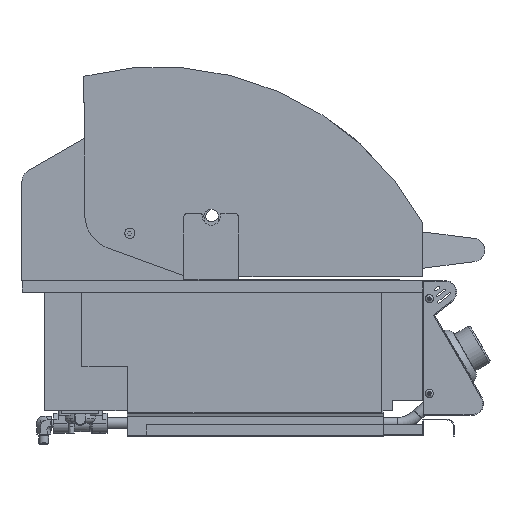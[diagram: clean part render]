
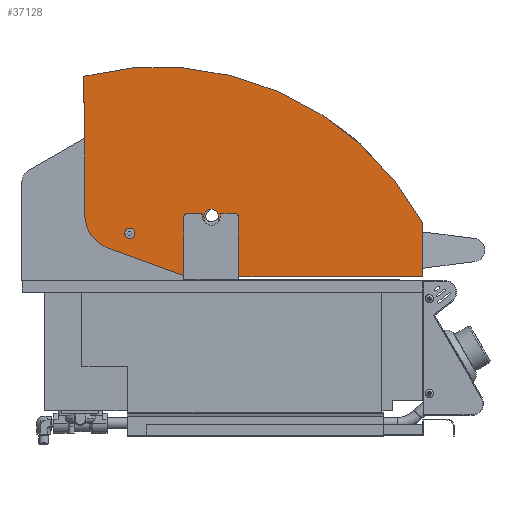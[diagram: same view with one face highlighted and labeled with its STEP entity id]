
A CAD part, left-side view. The second image highlights one B-rep face of the part: STEP entity #37128.
In plain terms, the highlighted planar face has unit normal (-1, 0, 0).
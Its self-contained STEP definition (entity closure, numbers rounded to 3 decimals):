
#919=CIRCLE('',#39634,9.417);
#921=CIRCLE('',#39638,49.566);
#923=CIRCLE('',#39642,4.5);
#925=CIRCLE('',#39645,5.);
#927=CIRCLE('',#39648,124.043);
#929=CIRCLE('',#39651,10.);
#931=CIRCLE('',#39654,104.043);
#952=CIRCLE('',#39695,413.5);
#970=CIRCLE('',#39729,1.266);
#972=CIRCLE('',#39733,1.001);
#2072=FACE_BOUND('',#6233,.T.);
#3825=FACE_OUTER_BOUND('',#6232,.T.);
#6232=EDGE_LOOP('',(#32541,#32542,#32543,#32544,#32545,#32546,#32547,#32548,
#32549,#32550,#32551,#32552,#32553,#32554,#32555,#32556));
#6233=EDGE_LOOP('',(#32557));
#10204=LINE('',#59586,#14347);
#10208=LINE('',#59598,#14351);
#10264=LINE('',#60371,#14407);
#10267=LINE('',#60377,#14410);
#10270=LINE('',#60383,#14413);
#10274=LINE('',#60399,#14417);
#10277=LINE('',#60404,#14420);
#14347=VECTOR('',#48064,10.);
#14351=VECTOR('',#48076,10.);
#14407=VECTOR('',#48304,10.);
#14410=VECTOR('',#48309,10.);
#14413=VECTOR('',#48314,10.);
#14417=VECTOR('',#48334,10.);
#14420=VECTOR('',#48339,10.);
#17731=VERTEX_POINT('',#59577);
#17732=VERTEX_POINT('',#59579);
#17734=VERTEX_POINT('',#59585);
#17736=VERTEX_POINT('',#59591);
#17738=VERTEX_POINT('',#59597);
#17740=VERTEX_POINT('',#59603);
#17743=VERTEX_POINT('',#59610);
#17744=VERTEX_POINT('',#59612);
#17746=VERTEX_POINT('',#59618);
#17748=VERTEX_POINT('',#59624);
#17792=VERTEX_POINT('',#59814);
#17793=VERTEX_POINT('',#59815);
#17897=VERTEX_POINT('',#60370);
#17899=VERTEX_POINT('',#60376);
#17901=VERTEX_POINT('',#60382);
#17903=VERTEX_POINT('',#60392);
#17905=VERTEX_POINT('',#60398);
#22656=EDGE_CURVE('',#17731,#17732,#919,.T.);
#22659=EDGE_CURVE('',#17732,#17734,#10204,.T.);
#22662=EDGE_CURVE('',#17734,#17736,#921,.T.);
#22665=EDGE_CURVE('',#17736,#17738,#10208,.T.);
#22669=EDGE_CURVE('',#17740,#17740,#923,.T.);
#22672=EDGE_CURVE('',#17743,#17744,#925,.T.);
#22675=EDGE_CURVE('',#17746,#17744,#927,.T.);
#22678=EDGE_CURVE('',#17748,#17746,#929,.T.);
#22681=EDGE_CURVE('',#17748,#17731,#931,.T.);
#22743=EDGE_CURVE('',#17792,#17793,#952,.T.);
#22848=EDGE_CURVE('',#17738,#17897,#10264,.T.);
#22851=EDGE_CURVE('',#17897,#17899,#10267,.T.);
#22854=EDGE_CURVE('',#17899,#17901,#10270,.T.);
#22857=EDGE_CURVE('',#17901,#17792,#970,.T.);
#22859=EDGE_CURVE('',#17793,#17903,#972,.T.);
#22862=EDGE_CURVE('',#17903,#17905,#10274,.T.);
#22865=EDGE_CURVE('',#17905,#17743,#10277,.T.);
#32541=ORIENTED_EDGE('',*,*,#22851,.F.);
#32542=ORIENTED_EDGE('',*,*,#22848,.F.);
#32543=ORIENTED_EDGE('',*,*,#22665,.F.);
#32544=ORIENTED_EDGE('',*,*,#22662,.F.);
#32545=ORIENTED_EDGE('',*,*,#22659,.F.);
#32546=ORIENTED_EDGE('',*,*,#22656,.F.);
#32547=ORIENTED_EDGE('',*,*,#22681,.F.);
#32548=ORIENTED_EDGE('',*,*,#22678,.T.);
#32549=ORIENTED_EDGE('',*,*,#22675,.T.);
#32550=ORIENTED_EDGE('',*,*,#22672,.F.);
#32551=ORIENTED_EDGE('',*,*,#22865,.F.);
#32552=ORIENTED_EDGE('',*,*,#22862,.F.);
#32553=ORIENTED_EDGE('',*,*,#22859,.F.);
#32554=ORIENTED_EDGE('',*,*,#22743,.F.);
#32555=ORIENTED_EDGE('',*,*,#22857,.F.);
#32556=ORIENTED_EDGE('',*,*,#22854,.F.);
#32557=ORIENTED_EDGE('',*,*,#22669,.F.);
#35368=PLANE('',#39738);
#37128=ADVANCED_FACE('',(#3825,#2072),#35368,.T.);
#39634=AXIS2_PLACEMENT_3D('',#59580,#48058,#48059);
#39638=AXIS2_PLACEMENT_3D('',#59592,#48070,#48071);
#39642=AXIS2_PLACEMENT_3D('',#59605,#48083,#48084);
#39645=AXIS2_PLACEMENT_3D('',#59613,#48090,#48091);
#39648=AXIS2_PLACEMENT_3D('',#59619,#48097,#48098);
#39651=AXIS2_PLACEMENT_3D('',#59625,#48104,#48105);
#39654=AXIS2_PLACEMENT_3D('',#59629,#48111,#48112);
#39695=AXIS2_PLACEMENT_3D('',#59816,#48225,#48226);
#39729=AXIS2_PLACEMENT_3D('',#60388,#48319,#48320);
#39733=AXIS2_PLACEMENT_3D('',#60393,#48327,#48328);
#39738=AXIS2_PLACEMENT_3D('',#60407,#48343,#48344);
#48058=DIRECTION('center_axis',(1.,0.,0.));
#48059=DIRECTION('ref_axis',(0.,-0.846,-0.533));
#48064=DIRECTION('',(0.,0.94,0.342));
#48070=DIRECTION('center_axis',(1.,0.,0.));
#48071=DIRECTION('ref_axis',(0.,0.342,-0.94));
#48076=DIRECTION('',(0.,0.,1.));
#48083=DIRECTION('center_axis',(-1.,0.,0.));
#48084=DIRECTION('ref_axis',(0.,1.,0.));
#48090=DIRECTION('center_axis',(1.,0.,0.));
#48091=DIRECTION('ref_axis',(0.,0.,
-1.));
#48097=DIRECTION('center_axis',(1.,0.,0.));
#48098=DIRECTION('ref_axis',(0.,-0.979,0.202));
#48104=DIRECTION('center_axis',(1.,0.,0.));
#48105=DIRECTION('ref_axis',(0.,0.979,-0.202));
#48111=DIRECTION('center_axis',(1.,0.,0.));
#48112=DIRECTION('ref_axis',(0.,-0.979,0.202));
#48225=DIRECTION('center_axis',(1.,0.,0.));
#48226=DIRECTION('ref_axis',(0.,0.248,0.969));
#48304=DIRECTION('',(0.,0.,1.));
#48309=DIRECTION('',(0.,1.,0.));
#48314=DIRECTION('',(0.,0.,1.));
#48319=DIRECTION('center_axis',(1.,0.,0.));
#48320=DIRECTION('ref_axis',(0.,1.,0.));
#48327=DIRECTION('center_axis',(1.,0.,0.));
#48328=DIRECTION('ref_axis',(0.,-0.876,0.483));
#48334=DIRECTION('',(0.,0.,-1.));
#48339=DIRECTION('',(0.,1.,0.));
#48343=DIRECTION('center_axis',(-1.,0.,0.));
#48344=DIRECTION('ref_axis',(0.,0.,1.));
#59577=CARTESIAN_POINT('',(0.,314.641,193.587));
#59579=CARTESIAN_POINT('',(0.,325.832,189.753));
#59580=CARTESIAN_POINT('Origin',(0.,322.611,
198.602));
#59585=CARTESIAN_POINT('',(0.,432.077,228.423));
#59586=CARTESIAN_POINT('',(0.,325.832,189.753));
#59591=CARTESIAN_POINT('',(0.,464.69,275.));
#59592=CARTESIAN_POINT('Origin',(0.,415.124,
275.));
#59597=CARTESIAN_POINT('',(0.,464.69,428.091));
#59598=CARTESIAN_POINT('',(0.,464.69,275.));
#59603=CARTESIAN_POINT('',(0.,398.2,249.));
#59605=CARTESIAN_POINT('Origin',(0.,402.7,
249.));
#59610=CARTESIAN_POINT('',(0.,285.964,189.));
#59612=CARTESIAN_POINT('',(0.,290.488,196.131));
#59613=CARTESIAN_POINT('Origin',(0.,285.964,
194.));
#59618=CARTESIAN_POINT('',(0.,281.205,274.017));
#59619=CARTESIAN_POINT('Origin',(0.,402.7,
249.));
#59624=CARTESIAN_POINT('',(0.,300.795,269.983));
#59625=CARTESIAN_POINT('Origin',(0.,291.,272.));
#59629=CARTESIAN_POINT('Origin',(0.,402.7,
249.));
#59814=CARTESIAN_POINT('',(0.,465.748,464.492));
#59815=CARTESIAN_POINT('',(0.,0.824,263.483));
#59816=CARTESIAN_POINT('Origin',(0.,363.002,
63.96));
#60370=CARTESIAN_POINT('',(0.,464.69,428.101));
#60371=CARTESIAN_POINT('',(0.,464.69,380.666));
#60376=CARTESIAN_POINT('',(0.,466.7,428.101));
#60377=CARTESIAN_POINT('',(0.,350.2,428.101));
#60382=CARTESIAN_POINT('',(0.,466.7,463.265));
#60383=CARTESIAN_POINT('',(0.,466.7,398.248));
#60388=CARTESIAN_POINT('Origin',(0.,465.434,
463.265));
#60392=CARTESIAN_POINT('',(0.,0.7,263.));
#60393=CARTESIAN_POINT('Origin',(0.,1.701,
263.));
#60398=CARTESIAN_POINT('',(0.,0.7,189.));
#60399=CARTESIAN_POINT('',(0.,0.7,261.115));
#60404=CARTESIAN_POINT('',(0.,125.701,189.));
#60407=CARTESIAN_POINT('Origin',(0.,233.7,
333.23));
